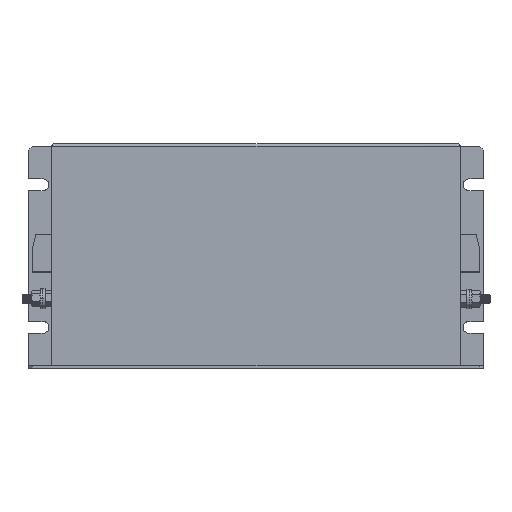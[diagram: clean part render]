
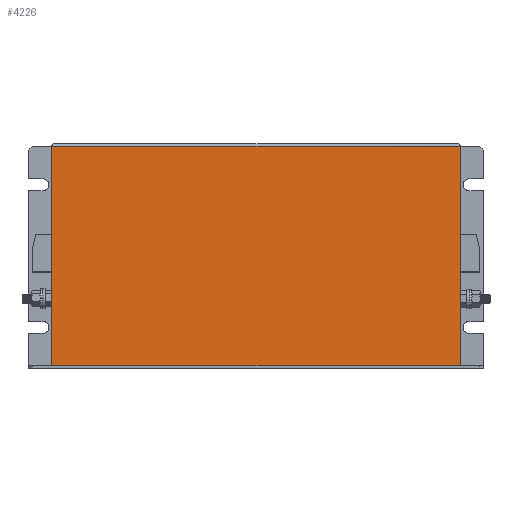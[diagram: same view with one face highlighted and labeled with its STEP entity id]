
A CAD part, top view. The second image highlights one B-rep face of the part: STEP entity #4226.
In plain terms, the highlighted planar face has unit normal (0, 0, 1).
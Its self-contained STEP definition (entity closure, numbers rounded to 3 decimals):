
#188 = VECTOR ( 'NONE', #4928, 1000. ) ;
#464 = EDGE_CURVE ( 'NONE', #5089, #5226, #7708, .T. ) ;
#537 = PLANE ( 'NONE',  #2739 ) ;
#573 = DIRECTION ( 'NONE',  ( -1., 0., 0. ) ) ;
#627 = DIRECTION ( 'NONE',  ( -1., 0., 0. ) ) ;
#664 = EDGE_CURVE ( 'NONE', #2277, #5089, #3073, .T. ) ;
#1236 = VECTOR ( 'NONE', #627, 1000. ) ;
#1242 = EDGE_CURVE ( 'NONE', #5226, #7884, #7149, .T. ) ;
#1741 = DIRECTION ( 'NONE',  ( 0., -1., 0. ) ) ;
#2277 = VERTEX_POINT ( 'NONE', #5373 ) ;
#2564 = CARTESIAN_POINT ( 'NONE',  ( 13., 126., 1.5 ) ) ;
#2739 = AXIS2_PLACEMENT_3D ( 'NONE', #2564, #6756, #573 ) ;
#2775 = ORIENTED_EDGE ( 'NONE', *, *, #664, .T. ) ;
#2900 = ORIENTED_EDGE ( 'NONE', *, *, #464, .T. ) ;
#3073 = LINE ( 'NONE', #6820, #1236 ) ;
#3184 = EDGE_LOOP ( 'NONE', ( #6237, #2775, #2900, #7716 ) ) ;
#3785 = EDGE_CURVE ( 'NONE', #2277, #7884, #5141, .T. ) ;
#4226 = ADVANCED_FACE ( 'NONE', ( #8715 ), #537, .F. ) ;
#4406 = CARTESIAN_POINT ( 'NONE',  ( 13., 126., 1.5 ) ) ;
#4928 = DIRECTION ( 'NONE',  ( 0., -1., 0. ) ) ;
#5014 = CARTESIAN_POINT ( 'NONE',  ( 13., 124.5, 1.5 ) ) ;
#5089 = VERTEX_POINT ( 'NONE', #5014 ) ;
#5141 = LINE ( 'NONE', #7701, #188 ) ;
#5226 = VERTEX_POINT ( 'NONE', #6518 ) ;
#5316 = VECTOR ( 'NONE', #6460, 1000. ) ;
#5373 = CARTESIAN_POINT ( 'NONE',  ( 242., 124.5, 1.5 ) ) ;
#5913 = CARTESIAN_POINT ( 'NONE',  ( 13., 1.5, 1.5 ) ) ;
#6237 = ORIENTED_EDGE ( 'NONE', *, *, #3785, .F. ) ;
#6460 = DIRECTION ( 'NONE',  ( 1., 0., 0. ) ) ;
#6518 = CARTESIAN_POINT ( 'NONE',  ( 13., 1.5, 1.5 ) ) ;
#6756 = DIRECTION ( 'NONE',  ( 0., 0., -1. ) ) ;
#6820 = CARTESIAN_POINT ( 'NONE',  ( 13., 124.5, 1.5 ) ) ;
#7149 = LINE ( 'NONE', #5913, #5316 ) ;
#7167 = VECTOR ( 'NONE', #1741, 1000. ) ;
#7701 = CARTESIAN_POINT ( 'NONE',  ( 242., 126., 1.5 ) ) ;
#7708 = LINE ( 'NONE', #4406, #7167 ) ;
#7716 = ORIENTED_EDGE ( 'NONE', *, *, #1242, .T. ) ;
#7743 = CARTESIAN_POINT ( 'NONE',  ( 242., 1.5, 1.5 ) ) ;
#7884 = VERTEX_POINT ( 'NONE', #7743 ) ;
#8715 = FACE_OUTER_BOUND ( 'NONE', #3184, .T. ) ;
